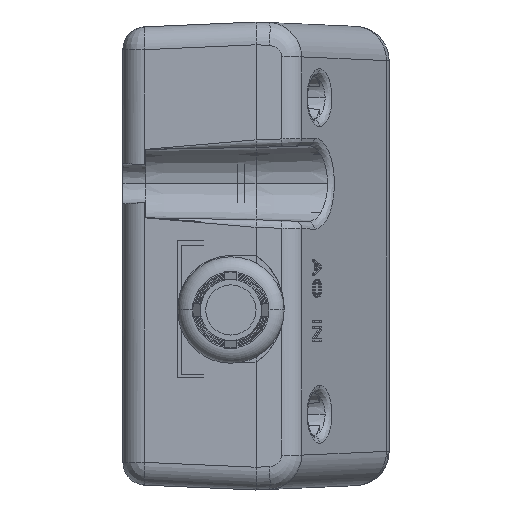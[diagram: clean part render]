
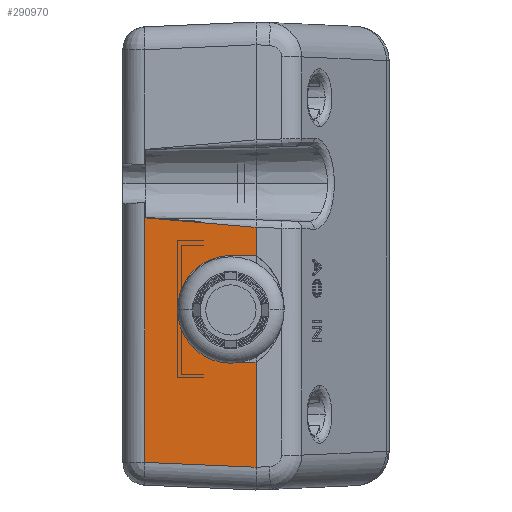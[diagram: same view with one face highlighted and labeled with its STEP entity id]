
A CAD part, left-side view. The second image highlights one B-rep face of the part: STEP entity #290970.
In plain terms, the highlighted planar face has unit normal (-0.999, 0.044, 0) as drawn and (0.999, 0.044, 0) by its records, which use the part's own axes.
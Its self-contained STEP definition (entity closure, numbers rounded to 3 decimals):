
#3610=CARTESIAN_POINT('',(90.264,0.,
27.767));
#3620=VERTEX_POINT('',#3610);
#3650=CARTESIAN_POINT('',(90.264,0.,0.));
#3660=DIRECTION('',(0.,0.,1.));
#3670=VECTOR('',#3660,1.);
#3680=LINE('',#3650,#3670);
#3690=CARTESIAN_POINT('',(90.264,0.,
13.947));
#3700=VERTEX_POINT('',#3690);
#3710=EDGE_CURVE('',#3700,#3620,#3680,.T.);
#4710=CARTESIAN_POINT('',(90.264,-0.003,
-0.057));
#4720=VERTEX_POINT('',#4710);
#5970=CARTESIAN_POINT('',(90.264,0.,
-3.765));
#5980=VERTEX_POINT('',#5970);
#53580=CARTESIAN_POINT('',(89.625,14.631,
27.129));
#53590=VERTEX_POINT('',#53580);
#91420=CARTESIAN_POINT('',(90.264,0.,0.));
#91430=DIRECTION('',(0.,0.,-1.));
#91440=VECTOR('',#91430,1.);
#91450=LINE('',#91420,#91440);
#91460=EDGE_CURVE('',#4720,#5980,#91450,.T.);
#226930=CARTESIAN_POINT('',(90.12,3.3,
-0.052));
#226940=VERTEX_POINT('',#226930);
#226970=CARTESIAN_POINT('',(89.784,11.,-0.052));
#226980=DIRECTION('',(0.044,-0.999,
0.));
#226990=VECTOR('',#226980,1.);
#227000=LINE('',#226970,#226990);
#227010=EDGE_CURVE('',#226940,#4720,#227000,.T.);
#236190=CARTESIAN_POINT('',(89.814,10.3,
6.948));
#236200=VERTEX_POINT('',#236190);
#236230=CARTESIAN_POINT('',(90.12,3.3,
13.948));
#236240=CARTESIAN_POINT('',(90.084,4.125,
13.948));
#236250=CARTESIAN_POINT('',(90.006,5.907,
13.65));
#236260=CARTESIAN_POINT('',(89.897,8.398,
12.045));
#236270=CARTESIAN_POINT('',(89.839,9.733,
9.974));
#236280=CARTESIAN_POINT('',(89.818,10.226,
8.213));
#236290=CARTESIAN_POINT('',(89.813,10.337,
6.948));
#236300=CARTESIAN_POINT('',(89.818,10.226,
5.684));
#236310=CARTESIAN_POINT('',(89.839,9.733,
3.922));
#236320=CARTESIAN_POINT('',(89.897,8.398,
1.852));
#236330=CARTESIAN_POINT('',(90.006,5.907,
0.247));
#236340=CARTESIAN_POINT('',(90.084,4.125,
-0.052));
#236350=CARTESIAN_POINT('',(90.12,3.3,
-0.052));
#236360=B_SPLINE_CURVE_WITH_KNOTS('',3,(#236230,#236240,#236250,#236260,
#236270,#236280,#236290,#236300,#236310,#236320,#236330,#236340,#236350)
,.UNSPECIFIED.,.F.,.F.,(4,1,1,1,1,1,1,1,1,1,4),(0.,0.125,0.25,0.375,
0.438,0.5,0.563,0.625,0.75,0.875,1.),.UNSPECIFIED.);
#236370=EDGE_CURVE('',#236200,#226940,#236360,.T.);
#264650=CARTESIAN_POINT('',(89.625,14.631,
-7.011));
#264660=VERTEX_POINT('',#264650);
#264690=CARTESIAN_POINT('',(89.625,14.631,
-7.011));
#264700=DIRECTION('',(0.,0.,1.));
#264710=VECTOR('',#264700,1.);
#264720=LINE('',#264690,#264710);
#264730=EDGE_CURVE('',#264660,#53590,#264720,.T.);
#265110=CARTESIAN_POINT('',(89.631,14.5,-7.017));
#265120=VERTEX_POINT('',#265110);
#265150=CARTESIAN_POINT('',(89.784,11.,-7.17));
#265160=DIRECTION('',(-0.044,0.998,
0.044));
#265170=VECTOR('',#265160,1.);
#265180=LINE('',#265150,#265170);
#265190=EDGE_CURVE('',#265120,#264660,#265180,.T.);
#267080=CARTESIAN_POINT('',(90.264,0.,
-3.762));
#267090=DIRECTION('',(-0.043,0.995,
-0.086));
#267100=VECTOR('',#267090,1.);
#267110=LINE('',#267080,#267100);
#267120=CARTESIAN_POINT('',(89.631,14.5,-5.017));
#267130=VERTEX_POINT('',#267120);
#267140=EDGE_CURVE('',#5980,#267130,#267110,.T.);
#267910=CARTESIAN_POINT('',(89.631,14.5,0.001))
;
#267920=DIRECTION('',(0.,0.,-1.));
#267930=VECTOR('',#267920,1.);
#267940=LINE('',#267910,#267930);
#267950=EDGE_CURVE('',#267130,#265120,#267940,.T.);
#290660=CARTESIAN_POINT('',(90.277,-0.293,
-7.517));
#290670=DIRECTION('',(0.999,0.044,
0.));
#290680=DIRECTION('',(-0.044,0.999,
0.));
#290690=AXIS2_PLACEMENT_3D('',#290660,#290670,#290680);
#290700=PLANE('',#290690);
#290710=ORIENTED_EDGE('',*,*,#91460,.T.);
#290720=ORIENTED_EDGE('',*,*,#227010,.T.);
#290730=ORIENTED_EDGE('',*,*,#236370,.T.);
#290740=CARTESIAN_POINT('',(90.12,3.3,
13.948));
#290750=VERTEX_POINT('',#290740);
#290760=EDGE_CURVE('',#290750,#236200,#236360,.T.);
#290770=ORIENTED_EDGE('',*,*,#290760,.T.);
#290780=CARTESIAN_POINT('',(89.784,11.,13.948));
#290790=DIRECTION('',(0.044,-0.999,
0.));
#290800=VECTOR('',#290790,1.);
#290810=LINE('',#290780,#290800);
#290820=EDGE_CURVE('',#290750,#3700,#290810,.T.);
#290830=ORIENTED_EDGE('',*,*,#290820,.F.);
#290840=ORIENTED_EDGE('',*,*,#3710,.F.);
#290850=CARTESIAN_POINT('',(89.612,14.925,
27.116));
#290860=DIRECTION('',(0.044,-0.998,
0.044));
#290870=VECTOR('',#290860,1.);
#290880=LINE('',#290850,#290870);
#290890=EDGE_CURVE('',#53590,#3620,#290880,.T.);
#290900=ORIENTED_EDGE('',*,*,#290890,.T.);
#290910=ORIENTED_EDGE('',*,*,#264730,.T.);
#290920=ORIENTED_EDGE('',*,*,#265190,.T.);
#290930=ORIENTED_EDGE('',*,*,#267950,.T.);
#290940=ORIENTED_EDGE('',*,*,#267140,.T.);
#290950=EDGE_LOOP('',(#290940,#290930,#290920,#290910,#290900,#290840,
#290830,#290770,#290730,#290720,#290710));
#290960=FACE_OUTER_BOUND('',#290950,.T.);
#290970=ADVANCED_FACE('',(#290960),#290700,.T.);
